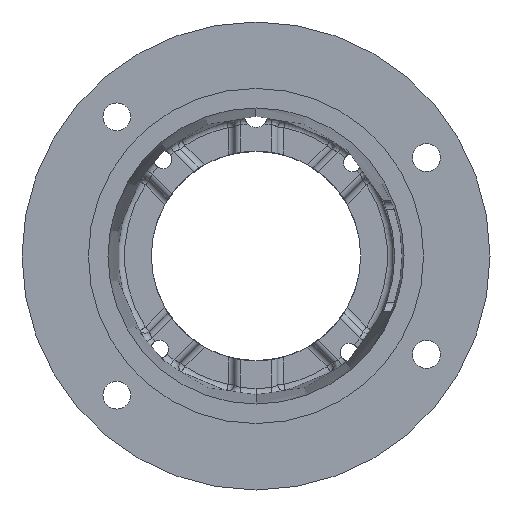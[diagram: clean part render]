
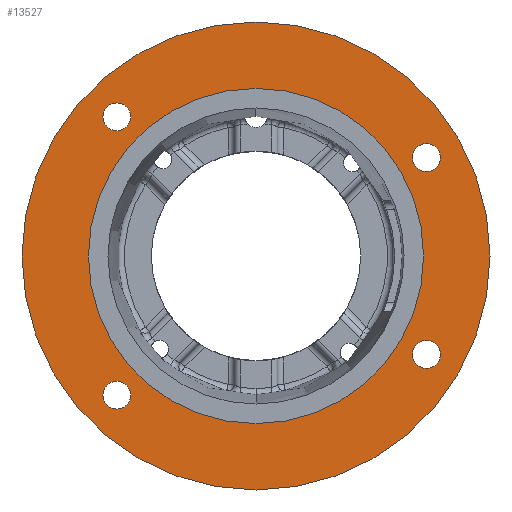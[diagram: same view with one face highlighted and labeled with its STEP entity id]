
A CAD part, front view. The second image highlights one B-rep face of the part: STEP entity #13527.
In plain terms, the highlighted planar face has unit normal (0, -1, 0).
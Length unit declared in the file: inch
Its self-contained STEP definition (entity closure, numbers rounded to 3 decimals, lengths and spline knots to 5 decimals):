
#16 = CIRCLE ( 'NONE', #12975, 0.32812 ) ;
#41 = EDGE_CURVE ( 'NONE', #7449, #12514, #13712, .T. ) ;
#55 = ORIENTED_EDGE ( 'NONE', *, *, #41, .T. ) ;
#111 = CIRCLE ( 'NONE', #1050, 0.32812 ) ;
#119 = DIRECTION ( 'NONE',  ( 0., 0., -1. ) ) ;
#321 = DIRECTION ( 'NONE',  ( 0., 0., -1. ) ) ;
#407 = FACE_OUTER_BOUND ( 'NONE', #2510, .T. ) ;
#440 = CARTESIAN_POINT ( 'NONE',  ( 0., 0., 0. ) ) ;
#442 = DIRECTION ( 'NONE',  ( 0., -1., 0. ) ) ;
#474 = EDGE_LOOP ( 'NONE', ( #1053, #3136 ) ) ;
#490 = CARTESIAN_POINT ( 'NONE',  ( -3.27037, 0., -3.27037 ) ) ;
#692 = EDGE_CURVE ( 'NONE', #6228, #5837, #10225, .T. ) ;
#798 = FACE_BOUND ( 'NONE', #474, .T. ) ;
#876 = CARTESIAN_POINT ( 'NONE',  ( 0., 0., 5.5 ) ) ;
#921 = CARTESIAN_POINT ( 'NONE',  ( 4.00537, 0., 1.98437 ) ) ;
#1050 = AXIS2_PLACEMENT_3D ( 'NONE', #4434, #4423, #4362 ) ;
#1053 = ORIENTED_EDGE ( 'NONE', *, *, #692, .F. ) ;
#1102 = EDGE_CURVE ( 'NONE', #8956, #11217, #5068, .T. ) ;
#1129 = ORIENTED_EDGE ( 'NONE', *, *, #6866, .F. ) ;
#1208 = EDGE_CURVE ( 'NONE', #10255, #7453, #7245, .T. ) ;
#1313 = DIRECTION ( 'NONE',  ( 0., -1., 0. ) ) ;
#1460 = CIRCLE ( 'NONE', #5254, 5.5 ) ;
#1465 = EDGE_LOOP ( 'NONE', ( #13207, #7004 ) ) ;
#1620 = ORIENTED_EDGE ( 'NONE', *, *, #3715, .F. ) ;
#1907 = DIRECTION ( 'NONE',  ( 0., -1., 0. ) ) ;
#2243 = CARTESIAN_POINT ( 'NONE',  ( 0., 0., 0. ) ) ;
#2367 = DIRECTION ( 'NONE',  ( 0., -1., 0. ) ) ;
#2510 = EDGE_LOOP ( 'NONE', ( #55, #12092 ) ) ;
#2610 = DIRECTION ( 'NONE',  ( 0., -1., 0. ) ) ;
#3136 = ORIENTED_EDGE ( 'NONE', *, *, #7808, .F. ) ;
#3383 = DIRECTION ( 'NONE',  ( 0., 0., -1. ) ) ;
#3457 = FACE_BOUND ( 'NONE', #4959, .T. ) ;
#3524 = DIRECTION ( 'NONE',  ( 0., 0., -1. ) ) ;
#3537 = DIRECTION ( 'NONE',  ( 0., -1., 0. ) ) ;
#3545 = CIRCLE ( 'NONE', #9419, 3.9385 ) ;
#3568 = CARTESIAN_POINT ( 'NONE',  ( 0., 0., 0. ) ) ;
#3715 = EDGE_CURVE ( 'NONE', #7453, #10255, #3545, .T. ) ;
#3927 = CIRCLE ( 'NONE', #7527, 0.32812 ) ;
#4118 = DIRECTION ( 'NONE',  ( 0., 0., -1. ) ) ;
#4253 = CARTESIAN_POINT ( 'NONE',  ( 4.00537, 0., 2.3125 ) ) ;
#4308 = DIRECTION ( 'NONE',  ( 0., -1., 0. ) ) ;
#4362 = DIRECTION ( 'NONE',  ( 0., 0., -1. ) ) ;
#4418 = AXIS2_PLACEMENT_3D ( 'NONE', #3568, #3537, #3524 ) ;
#4423 = DIRECTION ( 'NONE',  ( 0., -1., 0. ) ) ;
#4434 = CARTESIAN_POINT ( 'NONE',  ( 4.00537, 0., -2.3125 ) ) ;
#4442 = ORIENTED_EDGE ( 'NONE', *, *, #1208, .F. ) ;
#4603 = CARTESIAN_POINT ( 'NONE',  ( -5.5, 0., 0. ) ) ;
#4629 = EDGE_CURVE ( 'NONE', #11415, #7599, #111, .T. ) ;
#4722 = AXIS2_PLACEMENT_3D ( 'NONE', #10692, #4308, #11761 ) ;
#4866 = CARTESIAN_POINT ( 'NONE',  ( 0., 0., -5.5 ) ) ;
#4959 = EDGE_LOOP ( 'NONE', ( #4442, #1620 ) ) ;
#5068 = CIRCLE ( 'NONE', #10769, 0.32812 ) ;
#5170 = CARTESIAN_POINT ( 'NONE',  ( -3.27037, 0., -3.59849 ) ) ;
#5254 = AXIS2_PLACEMENT_3D ( 'NONE', #2243, #9785, #3383 ) ;
#5696 = DIRECTION ( 'NONE',  ( 0., 1., 0. ) ) ;
#5837 = VERTEX_POINT ( 'NONE', #10664 ) ;
#6228 = VERTEX_POINT ( 'NONE', #921 ) ;
#6316 = EDGE_LOOP ( 'NONE', ( #14097, #7971 ) ) ;
#6346 = FACE_BOUND ( 'NONE', #1465, .T. ) ;
#6372 = EDGE_LOOP ( 'NONE', ( #14003, #1129 ) ) ;
#6760 = AXIS2_PLACEMENT_3D ( 'NONE', #4253, #7217, #4118 ) ;
#6794 = DIRECTION ( 'NONE',  ( 0., -1., 0. ) ) ;
#6861 = CARTESIAN_POINT ( 'NONE',  ( -3.27037, 0., 2.94224 ) ) ;
#6866 = EDGE_CURVE ( 'NONE', #7599, #11415, #9931, .T. ) ;
#7004 = ORIENTED_EDGE ( 'NONE', *, *, #12404, .F. ) ;
#7217 = DIRECTION ( 'NONE',  ( 0., -1., 0. ) ) ;
#7245 = CIRCLE ( 'NONE', #12917, 3.9385 ) ;
#7249 = EDGE_CURVE ( 'NONE', #12514, #7449, #1460, .T. ) ;
#7449 = VERTEX_POINT ( 'NONE', #4866 ) ;
#7453 = VERTEX_POINT ( 'NONE', #9183 ) ;
#7527 = AXIS2_PLACEMENT_3D ( 'NONE', #13151, #6794, #119 ) ;
#7597 = CIRCLE ( 'NONE', #4722, 0.32812 ) ;
#7599 = VERTEX_POINT ( 'NONE', #12571 ) ;
#7655 = CIRCLE ( 'NONE', #11819, 0.32812 ) ;
#7808 = EDGE_CURVE ( 'NONE', #5837, #6228, #3927, .T. ) ;
#7844 = CARTESIAN_POINT ( 'NONE',  ( 4.00537, 0., -2.64063 ) ) ;
#7971 = ORIENTED_EDGE ( 'NONE', *, *, #1102, .F. ) ;
#8346 = AXIS2_PLACEMENT_3D ( 'NONE', #4603, #5696, #13124 ) ;
#8413 = CARTESIAN_POINT ( 'NONE',  ( -3.27037, 0., 3.27037 ) ) ;
#8496 = VERTEX_POINT ( 'NONE', #6861 ) ;
#8837 = CARTESIAN_POINT ( 'NONE',  ( -3.27037, 0., 3.27037 ) ) ;
#8850 = PLANE ( 'NONE',  #8346 ) ;
#8956 = VERTEX_POINT ( 'NONE', #10063 ) ;
#9078 = CARTESIAN_POINT ( 'NONE',  ( 4.00537, 0., -2.3125 ) ) ;
#9109 = EDGE_CURVE ( 'NONE', #11217, #8956, #7597, .T. ) ;
#9146 = FACE_BOUND ( 'NONE', #6316, .T. ) ;
#9183 = CARTESIAN_POINT ( 'NONE',  ( 0., 0., 3.9385 ) ) ;
#9419 = AXIS2_PLACEMENT_3D ( 'NONE', #11261, #11206, #11009 ) ;
#9500 = DIRECTION ( 'NONE',  ( 0., 0., -1. ) ) ;
#9785 = DIRECTION ( 'NONE',  ( 0., -1., 0. ) ) ;
#9897 = DIRECTION ( 'NONE',  ( 0., 0., -1. ) ) ;
#9931 = CIRCLE ( 'NONE', #10039, 0.32812 ) ;
#10039 = AXIS2_PLACEMENT_3D ( 'NONE', #9078, #2610, #10144 ) ;
#10063 = CARTESIAN_POINT ( 'NONE',  ( -3.27037, 0., -2.94224 ) ) ;
#10144 = DIRECTION ( 'NONE',  ( 0., 0., -1. ) ) ;
#10225 = CIRCLE ( 'NONE', #6760, 0.32812 ) ;
#10255 = VERTEX_POINT ( 'NONE', #11390 ) ;
#10664 = CARTESIAN_POINT ( 'NONE',  ( 4.00537, 0., 2.64062 ) ) ;
#10692 = CARTESIAN_POINT ( 'NONE',  ( -3.27037, 0., -3.27037 ) ) ;
#10769 = AXIS2_PLACEMENT_3D ( 'NONE', #490, #442, #321 ) ;
#11009 = DIRECTION ( 'NONE',  ( 0., 0., -1. ) ) ;
#11206 = DIRECTION ( 'NONE',  ( 0., -1., 0. ) ) ;
#11217 = VERTEX_POINT ( 'NONE', #5170 ) ;
#11261 = CARTESIAN_POINT ( 'NONE',  ( 0., 0., 0. ) ) ;
#11390 = CARTESIAN_POINT ( 'NONE',  ( 0., 0., -3.9385 ) ) ;
#11415 = VERTEX_POINT ( 'NONE', #7844 ) ;
#11761 = DIRECTION ( 'NONE',  ( 0., 0., -1. ) ) ;
#11819 = AXIS2_PLACEMENT_3D ( 'NONE', #8837, #2367, #9897 ) ;
#11983 = FACE_BOUND ( 'NONE', #6372, .T. ) ;
#12092 = ORIENTED_EDGE ( 'NONE', *, *, #7249, .T. ) ;
#12145 = EDGE_CURVE ( 'NONE', #8496, #13724, #7655, .T. ) ;
#12404 = EDGE_CURVE ( 'NONE', #13724, #8496, #16, .T. ) ;
#12514 = VERTEX_POINT ( 'NONE', #876 ) ;
#12571 = CARTESIAN_POINT ( 'NONE',  ( 4.00537, 0., -1.98438 ) ) ;
#12810 = CARTESIAN_POINT ( 'NONE',  ( -3.27037, 0., 3.59849 ) ) ;
#12917 = AXIS2_PLACEMENT_3D ( 'NONE', #440, #1313, #13856 ) ;
#12975 = AXIS2_PLACEMENT_3D ( 'NONE', #8413, #1907, #9500 ) ;
#13124 = DIRECTION ( 'NONE',  ( 0., 0., 1. ) ) ;
#13151 = CARTESIAN_POINT ( 'NONE',  ( 4.00537, 0., 2.3125 ) ) ;
#13207 = ORIENTED_EDGE ( 'NONE', *, *, #12145, .F. ) ;
#13527 = ADVANCED_FACE ( 'NONE', ( #798, #11983, #9146, #6346, #3457, #407 ), #8850, .F. ) ;
#13712 = CIRCLE ( 'NONE', #4418, 5.5 ) ;
#13724 = VERTEX_POINT ( 'NONE', #12810 ) ;
#13856 = DIRECTION ( 'NONE',  ( 0., 0., -1. ) ) ;
#14003 = ORIENTED_EDGE ( 'NONE', *, *, #4629, .F. ) ;
#14097 = ORIENTED_EDGE ( 'NONE', *, *, #9109, .F. ) ;
